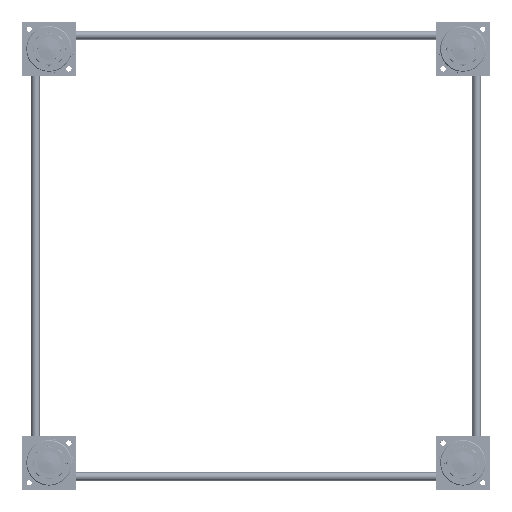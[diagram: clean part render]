
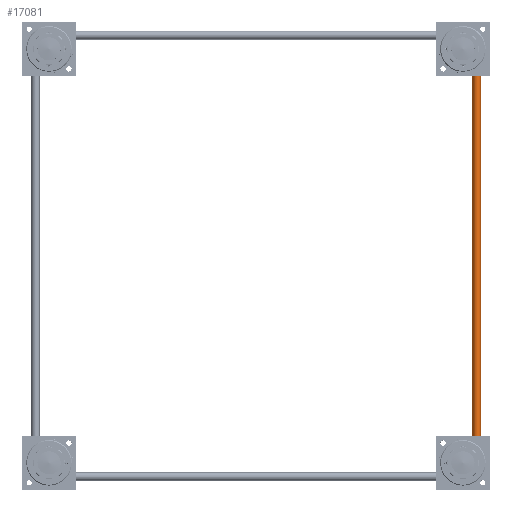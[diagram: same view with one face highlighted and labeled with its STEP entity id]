
A CAD part, top view. The second image highlights one B-rep face of the part: STEP entity #17081.
In plain terms, the highlighted cylindrical face has radius 5 mm (diameter 10 mm), a full revolution.
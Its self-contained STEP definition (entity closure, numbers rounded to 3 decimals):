
#17081=ADVANCED_FACE('',(#35633,#35634),#35635,.T.);
#35633=FACE_OUTER_BOUND('',#61456,.T.);
#35634=FACE_OUTER_BOUND('',#61457,.T.);
#35635=CYLINDRICAL_SURFACE('',#61458,5.0);
#61456=EDGE_LOOP('',(#137748));
#61457=EDGE_LOOP('',(#137749));
#61458=AXIS2_PLACEMENT_3D('',#137750,#137751,#137752);
#137748=ORIENTED_EDGE('',*,*,#164261,.T.);
#137749=ORIENTED_EDGE('',*,*,#164258,.T.);
#137750=CARTESIAN_POINT('',(0.0,0.0,511.0));
#137751=DIRECTION('',(0.0,0.0,-1.0));
#137752=DIRECTION('',(-1.0,0.0,0.0));
#164258=EDGE_CURVE('',#209538,#209538,#209539,.F.);
#164261=EDGE_CURVE('',#209544,#209544,#209545,.T.);
#209538=VERTEX_POINT('',#290413);
#209539=CIRCLE('',#290414,5.0);
#209544=VERTEX_POINT('',#290419);
#209545=CIRCLE('',#290420,5.0);
#290413=CARTESIAN_POINT('',(5.0,0.0,510.5));
#290414=AXIS2_PLACEMENT_3D('',#320091,#320092,#320093);
#290419=CARTESIAN_POINT('',(5.0,0.0,0.5));
#290420=AXIS2_PLACEMENT_3D('',#320100,#320101,#320102);
#320091=CARTESIAN_POINT('',(0.0,0.0,510.5));
#320092=DIRECTION('',(0.0,0.0,1.0));
#320093=DIRECTION('',(1.0,0.0,0.0));
#320100=CARTESIAN_POINT('',(0.0,0.0,0.5));
#320101=DIRECTION('',(0.0,0.0,1.0));
#320102=DIRECTION('',(1.0,0.0,0.0));
